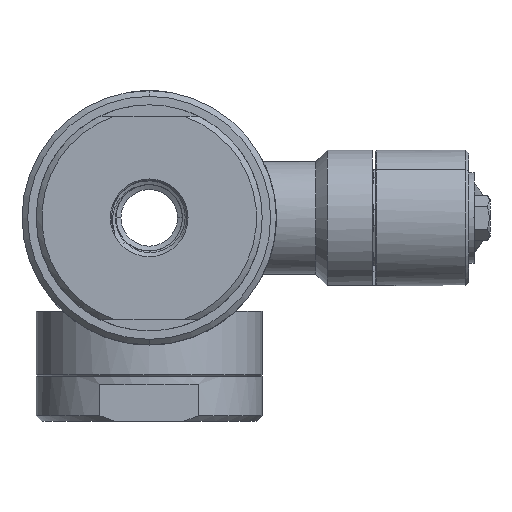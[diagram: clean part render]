
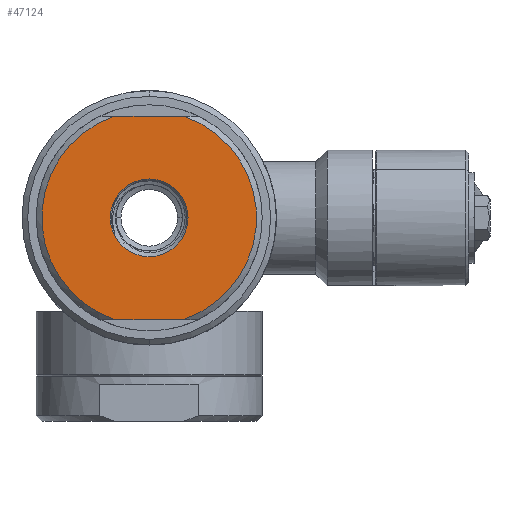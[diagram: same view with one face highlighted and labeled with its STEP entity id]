
A CAD part, front view. The second image highlights one B-rep face of the part: STEP entity #47124.
In plain terms, the highlighted planar face has unit normal (0, -1, 0).
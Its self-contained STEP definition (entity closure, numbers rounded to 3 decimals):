
#15343=CARTESIAN_POINT('',(0.,-36.,0.));
#15344=DIRECTION('',(0.,1.,0.));
#15345=DIRECTION('',(1.,0.,0.));
#15346=AXIS2_PLACEMENT_3D('',#15343,#15344,#15345);
#15620=CARTESIAN_POINT('',(0.,-36.,0.));
#15621=DIRECTION('',(0.,-1.,0.));
#15622=DIRECTION('',(1.,0.,0.));
#15623=AXIS2_PLACEMENT_3D('',#15620,#15621,#15622);
#15635=DIRECTION('',(-1.,0.,0.));
#15636=VECTOR('',#15635,12.166);
#15637=CARTESIAN_POINT('',(6.083,-36.,
18.));
#15638=LINE('',#15637,#15636);
#15642=DIRECTION('',(-1.,0.,0.));
#15643=VECTOR('',#15642,12.166);
#15644=CARTESIAN_POINT('',(6.083,-36.,
-18.));
#15645=LINE('',#15644,#15643);
#15649=CARTESIAN_POINT('',(0.,-36.,0.));
#15650=DIRECTION('',(0.,-1.,0.));
#15651=DIRECTION('',(-0.32,0.,0.947));
#15652=AXIS2_PLACEMENT_3D('',#15649,#15650,#15651);
#15657=CARTESIAN_POINT('',(-6.083,-36.,
-18.));
#15674=CARTESIAN_POINT('',(6.083,-36.,
-18.));
#15693=CARTESIAN_POINT('',(0.,-36.,0.));
#15694=DIRECTION('',(0.,-1.,0.));
#15695=DIRECTION('',(0.32,0.,-0.947));
#15696=AXIS2_PLACEMENT_3D('',#15693,#15694,#15695);
#15822=CARTESIAN_POINT('',(-6.083,-36.,
18.));
#15848=CARTESIAN_POINT('',(6.083,-36.,
18.));
#36607=CARTESIAN_POINT('',(6.875,-36.,0.));
#36608=CARTESIAN_POINT('',(-6.875,-36.,0.));
#36609=VERTEX_POINT('',#36607);
#36610=VERTEX_POINT('',#36608);
#36652=VERTEX_POINT('',#15822);
#36655=VERTEX_POINT('',#15657);
#36658=VERTEX_POINT('',#15674);
#36661=VERTEX_POINT('',#15848);
#47105=CARTESIAN_POINT('',(0.,-36.,0.));
#47106=DIRECTION('',(0.,-1.,0.));
#47107=DIRECTION('',(-1.,0.,0.));
#47108=AXIS2_PLACEMENT_3D('',#47105,#47106,#47107);
#47109=PLANE('',#47108);
#47111=ORIENTED_EDGE('',*,*,#47110,.F.);
#47113=ORIENTED_EDGE('',*,*,#47112,.F.);
#47115=ORIENTED_EDGE('',*,*,#47114,.F.);
#47117=ORIENTED_EDGE('',*,*,#47116,.T.);
#47118=EDGE_LOOP('',(#47111,#47113,#47115,#47117));
#47119=FACE_OUTER_BOUND('',#47118,.F.);
#47120=ORIENTED_EDGE('',*,*,#46825,.F.);
#47121=ORIENTED_EDGE('',*,*,#47015,.T.);
#47122=EDGE_LOOP('',(#47120,#47121));
#47123=FACE_BOUND('',#47122,.F.);
#47124=ADVANCED_FACE('',(#47119,#47123),#47109,.T.);
#15347=CIRCLE('',#15346,6.875);
#15624=CIRCLE('',#15623,6.875);
#15653=CIRCLE('',#15652,19.);
#15697=CIRCLE('',#15696,19.);
#46825=EDGE_CURVE('',#36609,#36610,#15347,.T.);
#47015=EDGE_CURVE('',#36609,#36610,#15624,.T.);
#47110=EDGE_CURVE('',#36652,#36655,#15653,.T.);
#47112=EDGE_CURVE('',#36661,#36652,#15638,.T.);
#47114=EDGE_CURVE('',#36658,#36661,#15697,.T.);
#47116=EDGE_CURVE('',#36658,#36655,#15645,.T.);
